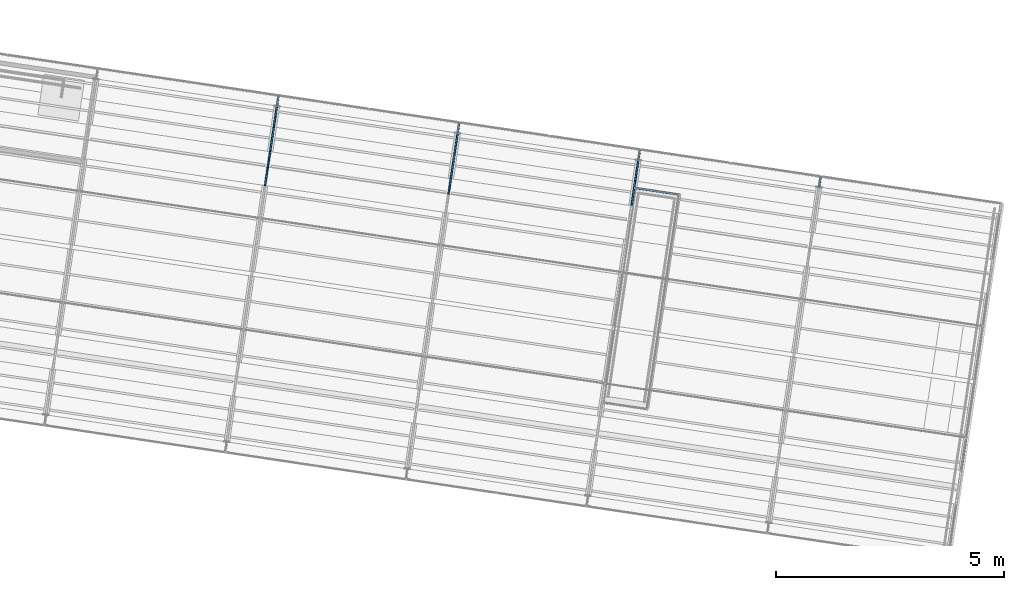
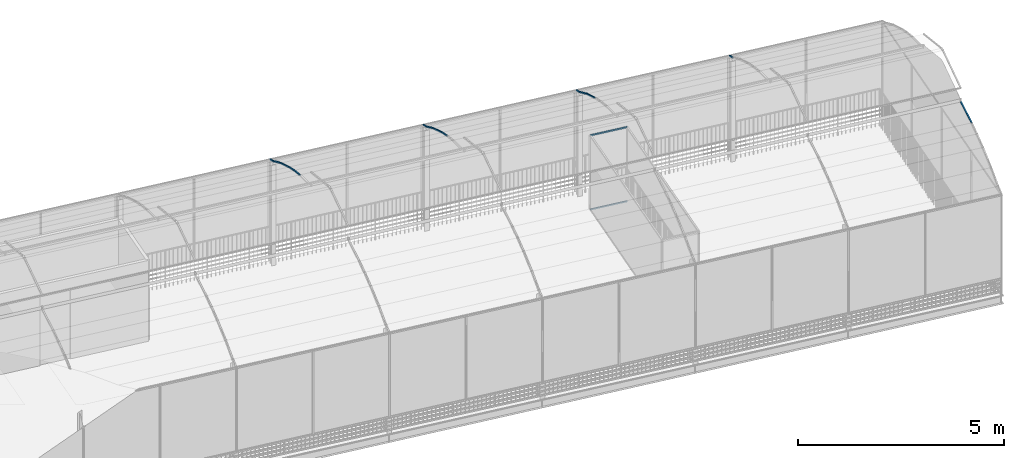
# One storey, part 23 of 34: 16 members, 1 element without a shape of its own.
"""IFC4 building model written with IfcOpenShell, lengths in metres."""

from ifc_helpers import new_model, si_unit, direction, frame, origin_with_axes, place, context, subcontext, project, spatial, rectangle, extrude, material, material_profile, profile_set, profile_usage, type_object, element, aggregate, save


model = new_model("IFC4")

# Units and contexts
model_context = context("Model", 3, precision=1e-05, world=origin_with_axes(), true_north=direction((0.0, 1.0)))
body_context = subcontext(model_context, "Body", "Model", "MODEL_VIEW")
ifc_project = project(units=[si_unit("VOLUMEUNIT", "CUBIC_METRE"), si_unit("LENGTHUNIT", "METRE"), si_unit("AREAUNIT", "SQUARE_METRE")], contexts=[model_context])

# Site, building, storey
site_placement = place(None, origin_with_axes())
site = spatial("IfcSite", under=ifc_project, at=site_placement, Name="Lares · Rua das Mercês · artigo 4771")
building_placement = place(site_placement, frame((12.0, 10.2, 13.9), z_axis=(0.0, 0.0, 1.0), x_axis=(0.989015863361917, -0.147809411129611, 0.0)))
building = spatial("IfcBuilding", under=site, at=building_placement, Name="Casa Sobreposta")
storey_placement = place(building_placement, frame((0.0, 0.0, 3.24), z_axis=(0.0, 0.0, 1.0), x_axis=(1.0, 0.0, 0.0)))
storey = spatial("IfcBuildingStorey", under=building, at=storey_placement, Name="01 · Jardim de inverno", Elevation=17.14)

# Roof, members
ifc_material_1 = material(Name="Vidro / Normalglas", Category="glass")
roof_placement = place(storey_placement, frame((0.0, 0.0, -3.24), z_axis=(0.0, 0.0, 1.0), x_axis=(1.0, 0.0, 0.0)))
roof = element("IfcRoof", 1, at=roof_placement, inside=storey, material=ifc_material_1, Name="Cobertura translúcida da estufa", PredefinedType="BARREL_ROOF")
ifc_material_2 = material(Name="Aço pintado / Stahl lackiert", Category="steel")
ifc_material_profile = material_profile(ifc_material_2, rectangle(XDim=0.035, YDim=0.035))
ifc_profile_set = profile_set([ifc_material_profile], Name="R0.035")
ifc_profile_usage_1 = profile_usage(ifc_profile_set)
member_type = type_object("IfcMemberType", Name="R0.035 / steel", PredefinedType="NOTDEFINED", material=ifc_profile_set)
member_1_placement = place(roof_placement, frame((32.0, 0.493171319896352, 7.05943931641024), z_axis=(0.0, 0.977995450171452, 0.208626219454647), x_axis=(1.0, 0.0, 0.0)))
member_1 = element("IfcMember", 2, at=member_1_placement, type_object=member_type, material=ifc_profile_usage_1, Name="Arco estufa 32/5", context=body_context, shape_type="SweptSolid", body=[
    extrude(rectangle(XDim=0.035, YDim=0.035), origin_with_axes(), (0.0, 0.0, 1.0), 0.737465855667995),
])
ifc_profile_usage_2 = profile_usage(ifc_profile_set)
member_2_placement = place(roof_placement, frame((16.0, 4.40690649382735, 7.05944154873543), z_axis=(0.0, 0.958508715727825, -0.285063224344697), x_axis=(1.0, 0.0, 0.0)))
member_2 = element("IfcMember", 3, at=member_2_placement, type_object=member_type, material=ifc_profile_usage_2, Name="Arco estufa 16/12", context=body_context, shape_type="SweptSolid", body=[
    extrude(rectangle(XDim=0.035, YDim=0.035), origin_with_axes(), (0.0, 0.0, 1.0), 0.426177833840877),
])
ifc_profile_usage_3 = profile_usage(ifc_profile_set)
member_3_placement = place(roof_placement, frame((16.0, 4.81540166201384, 6.93795392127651), z_axis=(0.0, 0.941396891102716, -0.337300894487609), x_axis=(1.0, 0.0, 0.0)))
member_3 = element("IfcMember", 4, at=member_3_placement, type_object=member_type, material=ifc_profile_usage_3, Name="Arco estufa 16/13", context=body_context, shape_type="SweptSolid", body=[
    extrude(rectangle(XDim=0.035, YDim=0.035), origin_with_axes(), (0.0, 0.0, 1.0), 0.362337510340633),
])
ifc_profile_usage_4 = profile_usage(ifc_profile_set)
member_4_placement = place(roof_placement, frame((20.0, 4.81540166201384, 6.93795392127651), z_axis=(0.0, 0.941396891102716, -0.337300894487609), x_axis=(1.0, 0.0, 0.0)))
member_4 = element("IfcMember", 5, at=member_4_placement, type_object=member_type, material=ifc_profile_usage_4, Name="Arco estufa 20/13", context=body_context, shape_type="SweptSolid", body=[
    extrude(rectangle(XDim=0.035, YDim=0.035), origin_with_axes(), (0.0, 0.0, 1.0), 0.362337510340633),
])
ifc_profile_usage_5 = profile_usage(ifc_profile_set)
member_5_placement = place(roof_placement, frame((16.0, 5.15650506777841, 6.8157371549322), z_axis=(0.0, 0.915895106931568, -0.401417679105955), x_axis=(1.0, 0.0, 0.0)))
member_5 = element("IfcMember", 6, at=member_5_placement, type_object=member_type, material=ifc_profile_usage_5, Name="Arco estufa 16/14", context=body_context, shape_type="SweptSolid", body=[
    extrude(rectangle(XDim=0.035, YDim=0.035), origin_with_axes(), (0.0, 0.0, 1.0), 0.596721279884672),
])
ifc_profile_usage_6 = profile_usage(ifc_profile_set)
member_6_placement = place(roof_placement, frame((20.0, 5.15650506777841, 6.8157371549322), z_axis=(0.0, 0.915895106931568, -0.401417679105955), x_axis=(1.0, 0.0, 0.0)))
member_6 = element("IfcMember", 7, at=member_6_placement, type_object=member_type, material=ifc_profile_usage_6, Name="Arco estufa 20/14", context=body_context, shape_type="SweptSolid", body=[
    extrude(rectangle(XDim=0.035, YDim=0.035), origin_with_axes(), (0.0, 0.0, 1.0), 0.596721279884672),
])
ifc_profile_usage_7 = profile_usage(ifc_profile_set)
member_7_placement = place(roof_placement, frame((24.0, 5.15650506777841, 6.8157371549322), z_axis=(0.0, 0.915895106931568, -0.401417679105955), x_axis=(1.0, 0.0, 0.0)))
member_7 = element("IfcMember", 8, at=member_7_placement, type_object=member_type, material=ifc_profile_usage_7, Name="Arco estufa 24/14", context=body_context, shape_type="SweptSolid", body=[
    extrude(rectangle(XDim=0.035, YDim=0.035), origin_with_axes(), (0.0, 0.0, 1.0), 0.596721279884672),
])
ifc_profile_usage_8 = profile_usage(ifc_profile_set)
member_8_placement = place(roof_placement, frame((16.0, 5.70303916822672, 6.57620268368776), z_axis=(0.0, 0.878867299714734, -0.477066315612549), x_axis=(1.0, 0.0, 0.0)))
member_8 = element("IfcMember", 9, at=member_8_placement, type_object=member_type, material=ifc_profile_usage_8, Name="Arco estufa 16/15", context=body_context, shape_type="SweptSolid", body=[
    extrude(rectangle(XDim=0.035, YDim=0.035), origin_with_axes(), (0.0, 0.0, 1.0), 0.52859183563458),
])
ifc_profile_usage_9 = profile_usage(ifc_profile_set)
member_9_placement = place(roof_placement, frame((20.0, 5.70303916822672, 6.57620268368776), z_axis=(0.0, 0.878867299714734, -0.477066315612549), x_axis=(1.0, 0.0, 0.0)))
member_9 = element("IfcMember", 10, at=member_9_placement, type_object=member_type, material=ifc_profile_usage_9, Name="Arco estufa 20/15", context=body_context, shape_type="SweptSolid", body=[
    extrude(rectangle(XDim=0.035, YDim=0.035), origin_with_axes(), (0.0, 0.0, 1.0), 0.52859183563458),
])
ifc_profile_usage_10 = profile_usage(ifc_profile_set)
member_10_placement = place(roof_placement, frame((24.0, 5.70303916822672, 6.57620268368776), z_axis=(0.0, 0.878867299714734, -0.477066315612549), x_axis=(1.0, 0.0, 0.0)))
member_10 = element("IfcMember", 11, at=member_10_placement, type_object=member_type, material=ifc_profile_usage_10, Name="Arco estufa 24/15", context=body_context, shape_type="SweptSolid", body=[
    extrude(rectangle(XDim=0.035, YDim=0.035), origin_with_axes(), (0.0, 0.0, 1.0), 0.52859183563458),
])
ifc_profile_usage_11 = profile_usage(ifc_profile_set)
member_11_placement = place(roof_placement, frame((16.0, 6.16760124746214, 6.3240293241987), z_axis=(0.0, 0.932880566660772, -0.360185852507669), x_axis=(1.0, 0.0, 0.0)))
member_11 = element("IfcMember", 12, at=member_11_placement, type_object=member_type, material=ifc_profile_usage_11, Name="Arco estufa 16/16", context=body_context, shape_type="SweptSolid", body=[
    extrude(rectangle(XDim=0.035, YDim=0.035), origin_with_axes(), (0.0, 0.0, 1.0), 0.249119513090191),
])
ifc_profile_usage_12 = profile_usage(ifc_profile_set)
member_12_placement = place(roof_placement, frame((20.0, 6.16760124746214, 6.3240293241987), z_axis=(0.0, 0.932880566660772, -0.360185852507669), x_axis=(1.0, 0.0, 0.0)))
member_12 = element("IfcMember", 13, at=member_12_placement, type_object=member_type, material=ifc_profile_usage_12, Name="Arco estufa 20/16", context=body_context, shape_type="SweptSolid", body=[
    extrude(rectangle(XDim=0.035, YDim=0.035), origin_with_axes(), (0.0, 0.0, 1.0), 0.249119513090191),
])
ifc_profile_usage_13 = profile_usage(ifc_profile_set)
member_13_placement = place(roof_placement, frame((24.0, 6.16760124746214, 6.3240293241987), z_axis=(0.0, 0.932880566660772, -0.360185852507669), x_axis=(1.0, 0.0, 0.0)))
member_13 = element("IfcMember", 14, at=member_13_placement, type_object=member_type, material=ifc_profile_usage_13, Name="Arco estufa 24/16", context=body_context, shape_type="SweptSolid", body=[
    extrude(rectangle(XDim=0.035, YDim=0.035), origin_with_axes(), (0.0, 0.0, 1.0), 0.249119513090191),
])
ifc_profile_usage_14 = profile_usage(ifc_profile_set)
member_14_placement = place(roof_placement, frame((28.0, 6.16760124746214, 6.3240293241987), z_axis=(0.0, 0.932880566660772, -0.360185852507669), x_axis=(1.0, 0.0, 0.0)))
member_14 = element("IfcMember", 15, at=member_14_placement, type_object=member_type, material=ifc_profile_usage_14, Name="Arco estufa 28/16", context=body_context, shape_type="SweptSolid", body=[
    extrude(rectangle(XDim=0.035, YDim=0.035), origin_with_axes(), (0.0, 0.0, 1.0), 0.249119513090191),
])
aggregate(roof, [member_1, member_2, member_3, member_4, member_5, member_6, member_7, member_8, member_9, member_10, member_11, member_12, member_13, member_14])

# Members
ifc_profile_usage_15 = profile_usage(ifc_profile_set)
member_15_placement = place(storey_placement, frame((24.03, 5.55, 0.0), z_axis=(1.0, 0.0, 0.0), x_axis=(0.0, -1.0, 0.0)))
element("IfcMember", 16, at=member_15_placement, inside=storey, type_object=member_type, material=ifc_profile_usage_15, Name="Caixa térmica 2 · north · travessa", context=body_context, shape_type="SweptSolid", body=[
    extrude(rectangle(XDim=0.035, YDim=0.035), origin_with_axes(), (0.0, 0.0, 1.0), 0.960000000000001),
])
ifc_profile_usage_16 = profile_usage(ifc_profile_set)
member_16_placement = place(storey_placement, frame((24.03, 5.55, 2.2), z_axis=(1.0, 0.0, 0.0), x_axis=(0.0, -1.0, 0.0)))
element("IfcMember", 17, at=member_16_placement, inside=storey, type_object=member_type, material=ifc_profile_usage_16, Name="Caixa térmica 2 · north · travessa", context=body_context, shape_type="SweptSolid", body=[
    extrude(rectangle(XDim=0.035, YDim=0.035), origin_with_axes(), (0.0, 0.0, 1.0), 0.960000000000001),
])

save(model, "model.ifc")
